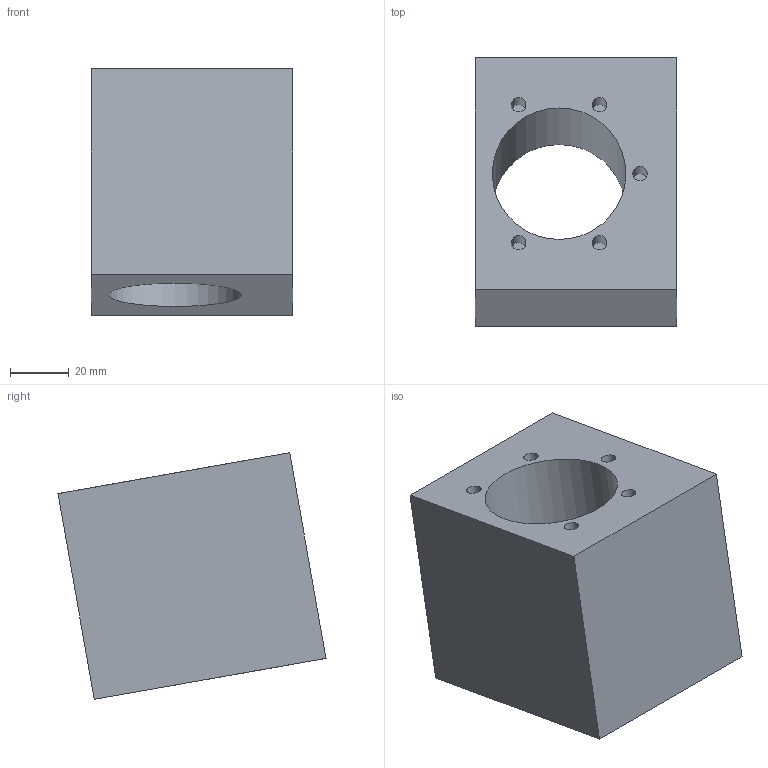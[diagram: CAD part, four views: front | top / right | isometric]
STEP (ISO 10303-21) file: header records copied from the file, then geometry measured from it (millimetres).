
FILE_DESCRIPTION(('golf model'),'2;1');
FILE_NAME('golf','',(''),(''),'golf_step_io','golf','');
FILE_SCHEMA(('AUTOMOTIVE_DESIGN { 1 0 10303 214 1 1 1 1 }'));
Length unit declared in the file: millimetre
Products named in the file (2): ASSEMBLY; y_carriage.y_nut_bracket
Assembly tree (1 placements, depth 2):
  ASSEMBLY
    y_carriage.y_nut_bracket
Bounding box: 68.5 x 91.11 x 83.81 mm (x, y, z)
Volume: 270153.7 mm3; surface area: 41573.6 mm2
Topology: 1 solids, 1 shells, 25 faces, 46 edges, 32 vertices
Faces by surface type: plane 15, cylinder 10
Full cylindrical faces by diameter (mm): 5 x5, 6.8 x4, 45.4 x1
Entity records: 584 total; most frequent: DIRECTION 106, CARTESIAN_POINT 87, ORIENTED_EDGE 64, AXIS2_PLACEMENT_3D 47, EDGE_LOOP 46, FACE_BOUND 43, EDGE_CURVE 32, VERTEX_POINT 28
